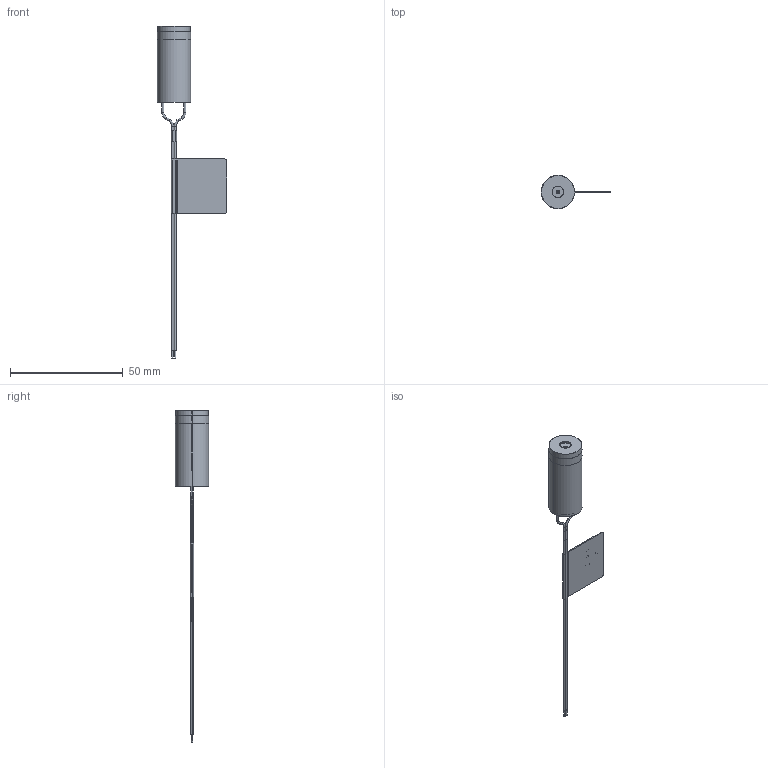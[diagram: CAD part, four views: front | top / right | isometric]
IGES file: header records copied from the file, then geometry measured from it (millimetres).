
Start section: SolidWorks IGES file using analytic representation for surfaces
Global section: file name: N:\POR\Public\PLMProductInfo\VLM ULN\VLM2.3-4L VHK2-1L VHK2.3-1L\VLM2.3-4L VHK2-1L VHK2.3-1L.IGS; native system: SolidWorks 2019; preprocessor: SolidWorks 2019; author: LewisD; date: 200109.094357; units: inch
Bounding box: 30.82 x 14.76 x 147.48 mm (x, y, z)
Surface area: 5100.9 mm2 (no closed solid volume)
Topology: 0 solids, 0 shells, 165 faces, 1844 edges, 1844 vertices
Faces by surface type: bspline 107, revolution 58
